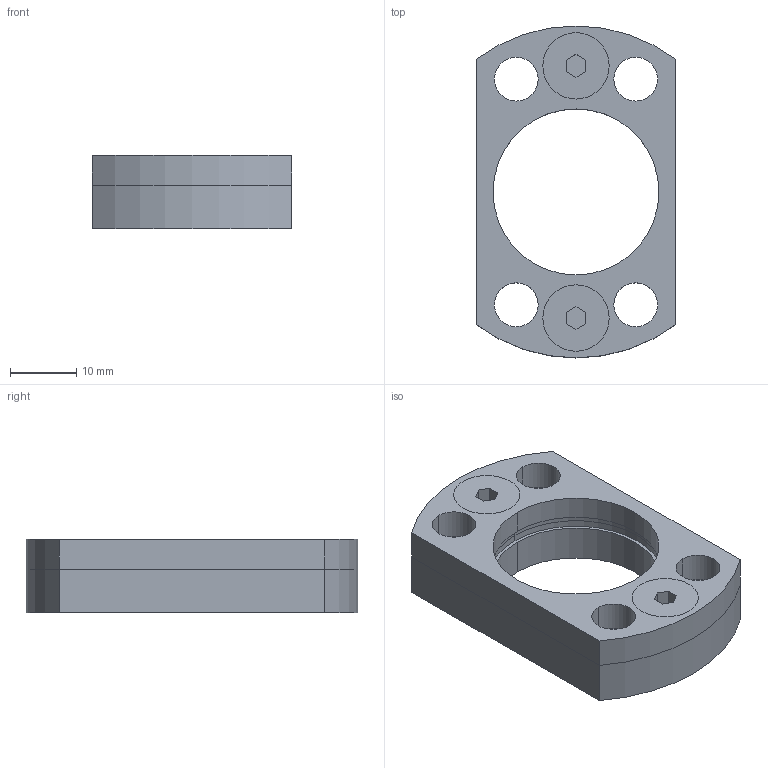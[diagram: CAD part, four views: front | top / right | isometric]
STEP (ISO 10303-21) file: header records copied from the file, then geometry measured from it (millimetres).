
FILE_DESCRIPTION(/* description */ (''),/* implementation_level */ '2;1');
FILE_NAME(/* name */ '3d_fm-25_03755_r00.stp',/* time_stamp */ '2011-01-10T14:15:37+09:00',/* author */ ('MISUMI'),/* organization */ (''),/* preprocessor_version */ 'ST-DEVELOPER v11',/* originating_system */ 'UGS - NX 5.0',/* authorisation */ '');
FILE_SCHEMA (('CONFIG_CONTROL_DESIGN'));
Length unit declared in the file: millimetre
Products named in the file (1): 3d_fm-25_03755_r00
Bounding box: 30 x 50 x 11 mm (x, y, z)
Volume: 8373.7 mm3; surface area: 7308 mm2
Topology: 4 solids, 4 shells, 80 faces, 192 edges, 124 vertices
Faces by surface type: cylinder 40, plane 28, cone 12
Entity records: 2488 total; most frequent: DIRECTION 446, CARTESIAN_POINT 397, ORIENTED_EDGE 384, EDGE_CURVE 192, AXIS2_PLACEMENT_3D 173, VERTEX_POINT 124, EDGE_LOOP 112, LINE 100
